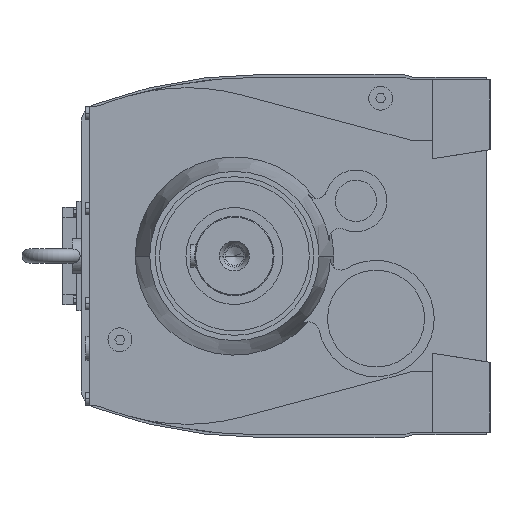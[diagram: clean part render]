
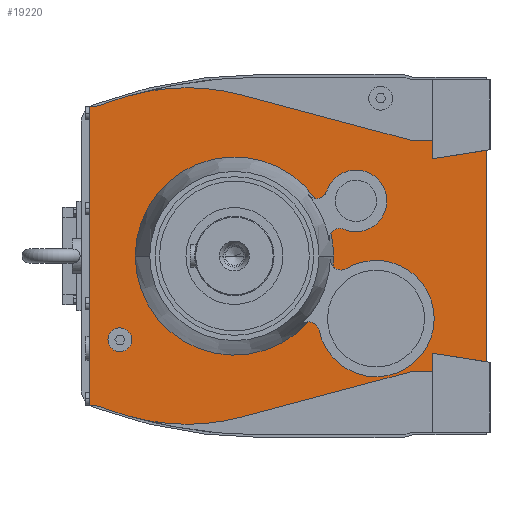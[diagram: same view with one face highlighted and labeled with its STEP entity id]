
A CAD part, left-side view. The second image highlights one B-rep face of the part: STEP entity #19220.
In plain terms, the highlighted planar face has unit normal (-1, 0, 0).
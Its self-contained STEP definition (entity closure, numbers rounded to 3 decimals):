
#3350=CARTESIAN_POINT('',(87.5,-109.433,26.031));
#3360=VERTEX_POINT('',#3350);
#3390=CARTESIAN_POINT('',(87.5,0.,0.));
#3400=DIRECTION('',(1.,0.,0.));
#3410=DIRECTION('',(0.,-1.,0.));
#3420=AXIS2_PLACEMENT_3D('',#3390,#3400,#3410);
#3430=CIRCLE('',#3420,112.487);
#3440=CARTESIAN_POINT('',(87.5,-112.487,0.));
#3450=VERTEX_POINT('',#3440);
#3460=EDGE_CURVE('',#3360,#3450,#3430,.T.);
#3690=CARTESIAN_POINT('',(87.5,112.487,0.));
#3700=VERTEX_POINT('',#3690);
#3730=CARTESIAN_POINT('',(87.5,0.,0.));
#3740=DIRECTION('',(1.,0.,0.));
#3750=DIRECTION('',(0.,-1.,0.));
#3760=AXIS2_PLACEMENT_3D('',#3730,#3740,#3750);
#3770=CIRCLE('',#3760,112.487);
#3780=CARTESIAN_POINT('',(87.5,-91.669,65.193));
#3790=VERTEX_POINT('',#3780);
#3800=EDGE_CURVE('',#3700,#3790,#3770,.T.);
#5830=CARTESIAN_POINT('',(87.5,-168.04,80.357));
#5840=VERTEX_POINT('',#5830);
#5870=CARTESIAN_POINT('',(87.5,-137.904,62.556));
#5880=DIRECTION('',(1.,0.,0.));
#5890=DIRECTION('',(0.,-0.861,0.509));
#5900=AXIS2_PLACEMENT_3D('',#5870,#5880,#5890);
#5910=CIRCLE('',#5900,35.);
#5920=CARTESIAN_POINT('',(87.5,-124.126,30.382));
#5930=VERTEX_POINT('',#5920);
#5940=EDGE_CURVE('',#5840,#5930,#5910,.T.);
#8260=CARTESIAN_POINT('',(87.5,-111.862,-11.837));
#8270=VERTEX_POINT('',#8260);
#8300=CARTESIAN_POINT('',(87.5,-120.896,-3.938));
#8310=DIRECTION('',(-1.,0.,0.));
#8320=DIRECTION('',(0.,-1.,0.));
#8330=AXIS2_PLACEMENT_3D('',#8300,#8310,#8320);
#8340=CIRCLE('',#8330,12.);
#8350=CARTESIAN_POINT('',(87.5,-127.021,-14.257));
#8360=VERTEX_POINT('',#8350);
#8370=EDGE_CURVE('',#8270,#8360,#8340,.T.);
#8620=CARTESIAN_POINT('',(87.5,-160.711,-71.011));
#8630=DIRECTION('',(-1.,0.,0.));
#8640=DIRECTION('',(0.,-1.,0.));
#8650=AXIS2_PLACEMENT_3D('',#8620,#8630,#8640);
#8660=CIRCLE('',#8650,66.);
#8670=CARTESIAN_POINT('',(87.5,-226.711,-71.011));
#8680=VERTEX_POINT('',#8670);
#8690=EDGE_CURVE('',#8680,#8360,#8660,.T.);
#12220=CARTESIAN_POINT('',(87.5,-96.066,-84.315));
#12230=VERTEX_POINT('',#12220);
#12260=CARTESIAN_POINT('',(87.5,-84.312,-86.734));
#12270=DIRECTION('',(-1.,0.,0.));
#12280=DIRECTION('',(0.,-1.,0.));
#12290=AXIS2_PLACEMENT_3D('',#12260,#12270,#12280);
#12300=CIRCLE('',#12290,12.);
#12310=CARTESIAN_POINT('',(87.5,-84.069,-74.737));
#12320=VERTEX_POINT('',#12310);
#12330=EDGE_CURVE('',#12230,#12320,#12300,.T.);
#14130=CARTESIAN_POINT('',(87.5,-93.209,77.093));
#14140=DIRECTION('',(-1.,0.,0.));
#14150=DIRECTION('',(0.,-1.,0.));
#14160=AXIS2_PLACEMENT_3D('',#14130,#14140,#14150);
#14170=CIRCLE('',#14160,12.);
#14180=CARTESIAN_POINT('',(87.5,-104.621,73.382));
#14190=VERTEX_POINT('',#14180);
#14200=EDGE_CURVE('',#3790,#14190,#14170,.T.);
#14370=CARTESIAN_POINT('',(87.5,-225.,0.));
#14380=DIRECTION('',(0.,0.,1.));
#14390=VECTOR('',#14380,1.);
#14400=LINE('',#14370,#14390);
#14410=CARTESIAN_POINT('',(87.5,-225.,110.309));
#14420=VERTEX_POINT('',#14410);
#14430=CARTESIAN_POINT('',(87.5,-225.,131.));
#14440=VERTEX_POINT('',#14430);
#14450=EDGE_CURVE('',#14420,#14440,#14400,.T.);
#17330=CARTESIAN_POINT('',(87.5,147.293,139.714));
#17340=DIRECTION('',(1.,0.,0.));
#17350=DIRECTION('',(0.,-1.,0.));
#17360=AXIS2_PLACEMENT_3D('',#17330,#17340,#17350);
#17370=PLANE('',#17360);
#17380=ORIENTED_EDGE('',*,*,#8370,.T.);
#17390=EDGE_CURVE('',#3450,#8270,#3430,.T.);
#17400=ORIENTED_EDGE('',*,*,#17390,.T.);
#17410=ORIENTED_EDGE('',*,*,#3460,.T.);
#17420=CARTESIAN_POINT('',(87.5,-119.402,19.351));
#17430=DIRECTION('',(-1.,0.,0.));
#17440=DIRECTION('',(0.,-1.,0.));
#17450=AXIS2_PLACEMENT_3D('',#17420,#17430,#17440);
#17460=CIRCLE('',#17450,12.);
#17470=EDGE_CURVE('',#5930,#3360,#17460,.T.);
#17480=ORIENTED_EDGE('',*,*,#17470,.T.);
#17490=ORIENTED_EDGE('',*,*,#5940,.T.);
#17500=EDGE_CURVE('',#14190,#5840,#5910,.T.);
#17510=ORIENTED_EDGE('',*,*,#17500,.T.);
#17520=ORIENTED_EDGE('',*,*,#14200,.T.);
#17530=ORIENTED_EDGE('',*,*,#3800,.T.);
#17540=EDGE_CURVE('',#12320,#3700,#3770,.T.);
#17550=ORIENTED_EDGE('',*,*,#17540,.T.);
#17560=ORIENTED_EDGE('',*,*,#12330,.T.);
#17570=EDGE_CURVE('',#12230,#8680,#8660,.T.);
#17580=ORIENTED_EDGE('',*,*,#17570,.F.);
#17590=ORIENTED_EDGE('',*,*,#8690,.F.);
#17600=EDGE_LOOP('',(#17590,#17580,#17560,#17550,#17530,#17520,#17510,#17490,#17480,#17410,#17400,#17380));
#17610=FACE_BOUND('',#17600,.T.);
#17620=CARTESIAN_POINT('',(87.5,0.,-131.));
#17630=DIRECTION('',(0.,1.,0.));
#17640=VECTOR('',#17630,1.);
#17650=LINE('',#17620,#17640);
#17660=CARTESIAN_POINT('',(87.5,-225.,-131.));
#17670=VERTEX_POINT('',#17660);
#17680=CARTESIAN_POINT('',(87.5,-201.531,-131.));
#17690=VERTEX_POINT('',#17680);
#17700=EDGE_CURVE('',#17670,#17690,#17650,.T.);
#17710=ORIENTED_EDGE('',*,*,#17700,.F.);
#17720=CARTESIAN_POINT('',(87.5,0.,-185.));
#17730=DIRECTION('',(0.,0.966,-0.259));
#17740=VECTOR('',#17730,1.);
#17750=LINE('',#17720,#17740);
#17760=CARTESIAN_POINT('',(87.5,-8.424,-182.743));
#17770=VERTEX_POINT('',#17760);
#17780=EDGE_CURVE('',#17690,#17770,#17750,.T.);
#17790=ORIENTED_EDGE('',*,*,#17780,.F.);
#17800=CARTESIAN_POINT('',(87.5,53.693,49.079));
#17810=DIRECTION('',(-1.,0.,0.));
#17820=DIRECTION('',(0.,0.,1.));
#17830=AXIS2_PLACEMENT_3D('',#17800,#17810,#17820);
#17840=CIRCLE('',#17830,240.);
#17850=CARTESIAN_POINT('',(87.5,53.693,-190.921));
#17860=VERTEX_POINT('',#17850);
#17870=EDGE_CURVE('',#17860,#17770,#17840,.T.);
#17880=ORIENTED_EDGE('',*,*,#17870,.T.);
#17890=CARTESIAN_POINT('',(87.5,120.036,-181.569));
#17900=VERTEX_POINT('',#17890);
#17910=EDGE_CURVE('',#17900,#17860,#17840,.T.);
#17920=ORIENTED_EDGE('',*,*,#17910,.T.);
#17930=CARTESIAN_POINT('',(87.5,-32.,347.));
#17940=DIRECTION('',(-1.,0.,0.));
#17950=DIRECTION('',(0.,1.,0.));
#17960=AXIS2_PLACEMENT_3D('',#17930,#17940,#17950);
#17970=CIRCLE('',#17960,550.);
#17980=CARTESIAN_POINT('',(87.5,156.,-169.871));
#17990=VERTEX_POINT('',#17980);
#18000=EDGE_CURVE('',#17990,#17900,#17970,.T.);
#18010=ORIENTED_EDGE('',*,*,#18000,.T.);
#18020=CARTESIAN_POINT('',(87.5,156.,-5.838));
#18030=DIRECTION('',(0.,0.,-1.));
#18040=VECTOR('',#18030,1.);
#18050=LINE('',#18020,#18040);
#18060=CARTESIAN_POINT('',(87.5,156.,-170.));
#18070=VERTEX_POINT('',#18060);
#18080=EDGE_CURVE('',#17990,#18070,#18050,.T.);
#18090=ORIENTED_EDGE('',*,*,#18080,.F.);
#18100=CARTESIAN_POINT('',(87.5,164.,-170.));
#18110=DIRECTION('',(0.,-1.,0.));
#18120=VECTOR('',#18110,1.);
#18130=LINE('',#18100,#18120);
#18140=CARTESIAN_POINT('',(87.5,164.,-170.));
#18150=VERTEX_POINT('',#18140);
#18160=EDGE_CURVE('',#18150,#18070,#18130,.T.);
#18170=ORIENTED_EDGE('',*,*,#18160,.T.);
#18180=CARTESIAN_POINT('',(87.5,164.,-5.838));
#18190=DIRECTION('',(0.,0.,-1.));
#18200=VECTOR('',#18190,1.);
#18210=LINE('',#18180,#18200);
#18220=CARTESIAN_POINT('',(87.5,164.,170.));
#18230=VERTEX_POINT('',#18220);
#18240=EDGE_CURVE('',#18230,#18150,#18210,.T.);
#18250=ORIENTED_EDGE('',*,*,#18240,.T.);
#18260=CARTESIAN_POINT('',(87.5,164.,170.));
#18270=DIRECTION('',(0.,-1.,0.));
#18280=VECTOR('',#18270,1.);
#18290=LINE('',#18260,#18280);
#18300=CARTESIAN_POINT('',(87.5,156.,170.));
#18310=VERTEX_POINT('',#18300);
#18320=EDGE_CURVE('',#18230,#18310,#18290,.T.);
#18330=ORIENTED_EDGE('',*,*,#18320,.F.);
#18340=CARTESIAN_POINT('',(87.5,156.,169.871));
#18350=VERTEX_POINT('',#18340);
#18360=EDGE_CURVE('',#18310,#18350,#18050,.T.);
#18370=ORIENTED_EDGE('',*,*,#18360,.F.);
#18380=CARTESIAN_POINT('',(87.5,-32.,-347.));
#18390=DIRECTION('',(1.,0.,0.));
#18400=DIRECTION('',(0.,1.,0.));
#18410=AXIS2_PLACEMENT_3D('',#18380,#18390,#18400);
#18420=CIRCLE('',#18410,550.);
#18430=CARTESIAN_POINT('',(87.5,120.036,181.569));
#18440=VERTEX_POINT('',#18430);
#18450=EDGE_CURVE('',#18350,#18440,#18420,.T.);
#18460=ORIENTED_EDGE('',*,*,#18450,.F.);
#18470=CARTESIAN_POINT('',(87.5,53.693,-49.079));
#18480=DIRECTION('',(1.,0.,0.));
#18490=DIRECTION('',(0.,0.,-1.));
#18500=AXIS2_PLACEMENT_3D('',#18470,#18480,#18490);
#18510=CIRCLE('',#18500,240.);
#18520=CARTESIAN_POINT('',(87.5,53.693,190.921));
#18530=VERTEX_POINT('',#18520);
#18540=EDGE_CURVE('',#18440,#18530,#18510,.T.);
#18550=ORIENTED_EDGE('',*,*,#18540,.F.);
#18560=CARTESIAN_POINT('',(87.5,-8.424,182.743));
#18570=VERTEX_POINT('',#18560);
#18580=EDGE_CURVE('',#18530,#18570,#18510,.T.);
#18590=ORIENTED_EDGE('',*,*,#18580,.F.);
#18600=CARTESIAN_POINT('',(87.5,0.,185.));
#18610=DIRECTION('',(0.,-0.966,-0.259));
#18620=VECTOR('',#18610,1.);
#18630=LINE('',#18600,#18620);
#18640=CARTESIAN_POINT('',(87.5,-201.531,131.));
#18650=VERTEX_POINT('',#18640);
#18660=EDGE_CURVE('',#18570,#18650,#18630,.T.);
#18670=ORIENTED_EDGE('',*,*,#18660,.F.);
#18680=CARTESIAN_POINT('',(87.5,0.,131.));
#18690=DIRECTION('',(0.,-1.,0.));
#18700=VECTOR('',#18690,1.);
#18710=LINE('',#18680,#18700);
#18720=EDGE_CURVE('',#18650,#14440,#18710,.T.);
#18730=ORIENTED_EDGE('',*,*,#18720,.F.);
#18740=ORIENTED_EDGE('',*,*,#14450,.T.);
#18750=CARTESIAN_POINT('',(87.5,0.,74.673));
#18760=DIRECTION('',(0.,0.988,-0.156));
#18770=VECTOR('',#18760,1.);
#18780=LINE('',#18750,#18770);
#18790=CARTESIAN_POINT('',(87.5,-286.,119.971));
#18800=VERTEX_POINT('',#18790);
#18810=EDGE_CURVE('',#18800,#14420,#18780,.T.);
#18820=ORIENTED_EDGE('',*,*,#18810,.T.);
#18830=CARTESIAN_POINT('',(87.5,-286.,0.));
#18840=DIRECTION('',(0.,0.,1.));
#18850=VECTOR('',#18840,1.);
#18860=LINE('',#18830,#18850);
#18870=CARTESIAN_POINT('',(87.5,-286.,-119.971));
#18880=VERTEX_POINT('',#18870);
#18890=EDGE_CURVE('',#18880,#18800,#18860,.T.);
#18900=ORIENTED_EDGE('',*,*,#18890,.T.);
#18910=CARTESIAN_POINT('',(87.5,0.,-74.673));
#18920=DIRECTION('',(0.,-0.988,-0.156));
#18930=VECTOR('',#18920,1.);
#18940=LINE('',#18910,#18930);
#18950=CARTESIAN_POINT('',(87.5,-225.,-110.309));
#18960=VERTEX_POINT('',#18950);
#18970=EDGE_CURVE('',#18960,#18880,#18940,.T.);
#18980=ORIENTED_EDGE('',*,*,#18970,.T.);
#18990=CARTESIAN_POINT('',(87.5,-225.,0.));
#19000=DIRECTION('',(0.,0.,1.));
#19010=VECTOR('',#19000,1.);
#19020=LINE('',#18990,#19010);
#19030=EDGE_CURVE('',#17670,#18960,#19020,.T.);
#19040=ORIENTED_EDGE('',*,*,#19030,.T.);
#19050=EDGE_LOOP('',(#19040,#18980,#18900,#18820,#18740,#18730,#18670,#18590,#18550,#18460,#18370,#18330,#18250,#18170,#18090,#18010,#17920,#17880,#17790,#17710));
#19060=FACE_OUTER_BOUND('',#19050,.T.);
#19070=CARTESIAN_POINT('',(87.5,130.,-95.));
#19080=DIRECTION('',(-1.,0.,0.));
#19090=DIRECTION('',(0.,0.,1.));
#19100=AXIS2_PLACEMENT_3D('',#19070,#19080,#19090);
#19110=CIRCLE('',#19100,13.5);
#19120=CARTESIAN_POINT('',(87.5,130.,-81.5));
#19130=VERTEX_POINT('',#19120);
#19140=CARTESIAN_POINT('',(87.5,130.,-108.5));
#19150=VERTEX_POINT('',#19140);
#19160=EDGE_CURVE('',#19130,#19150,#19110,.T.);
#19170=ORIENTED_EDGE('',*,*,#19160,.F.);
#19180=EDGE_CURVE('',#19150,#19130,#19110,.T.);
#19190=ORIENTED_EDGE('',*,*,#19180,.F.);
#19200=EDGE_LOOP('',(#19190,#19170));
#19210=FACE_BOUND('',#19200,.T.);
#19220=ADVANCED_FACE('',(#17610,#19060,#19210),#17370,.F.);
